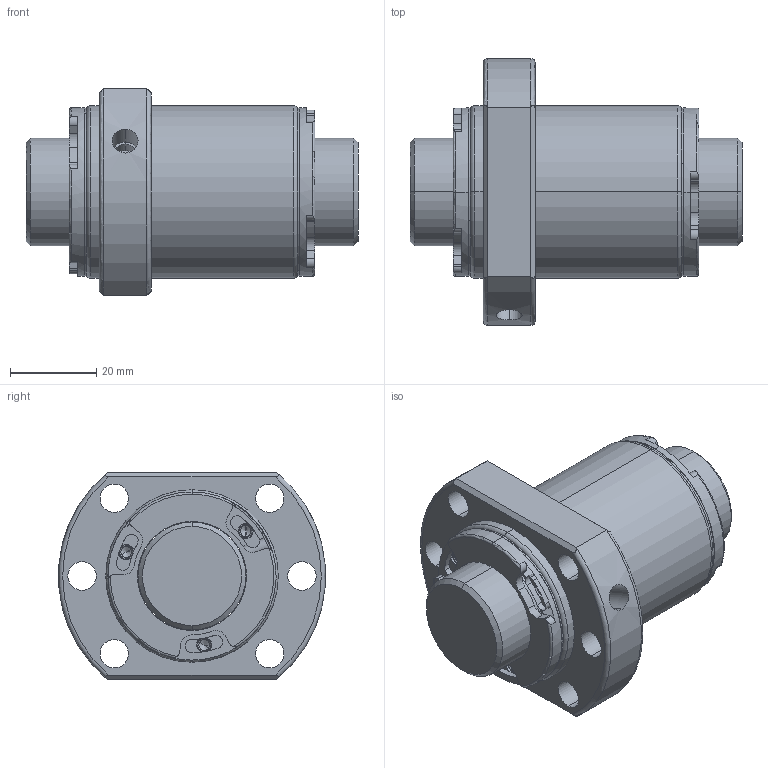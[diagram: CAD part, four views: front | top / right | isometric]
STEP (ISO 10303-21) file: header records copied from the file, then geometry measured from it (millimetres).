
FILE_DESCRIPTION (( 'STEP AP203' ), '1' );
FILE_NAME ('SFHR02510C1D-C.STEP', '2020-06-17T08:01:40', ( '' ), ( '' ), 'SwSTEP 2.0', 'SolidWorks 2013', '' );
FILE_SCHEMA (( 'CONFIG_CONTROL_DESIGN' ));
Length unit declared in the file: millimetre
Products named in the file (1): SFHR02510C1D-C
Bounding box: 77 x 61.83 x 48 mm (x, y, z)
Volume: 89781.2 mm3; surface area: 25783.2 mm2
Topology: 2 solids, 2 shells, 248 faces, 620 edges, 388 vertices
Faces by surface type: cylinder 134, plane 70, cone 28, torus 16
Entity records: 7829 total; most frequent: CARTESIAN_POINT 1569, DIRECTION 1452, ORIENTED_EDGE 1216, AXIS2_PLACEMENT_3D 619, EDGE_CURVE 608, VERTEX_POINT 388, CIRCLE 370, EDGE_LOOP 288
